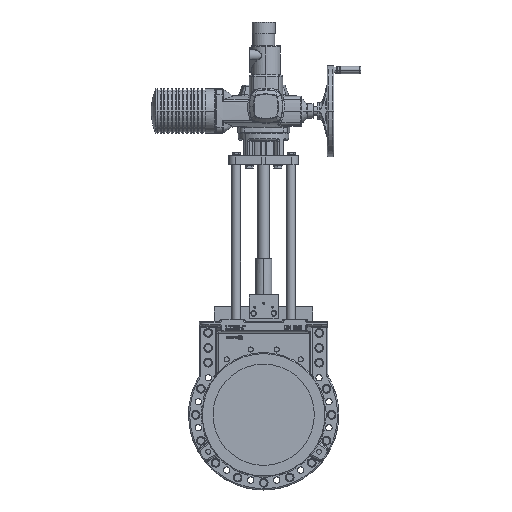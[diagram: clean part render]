
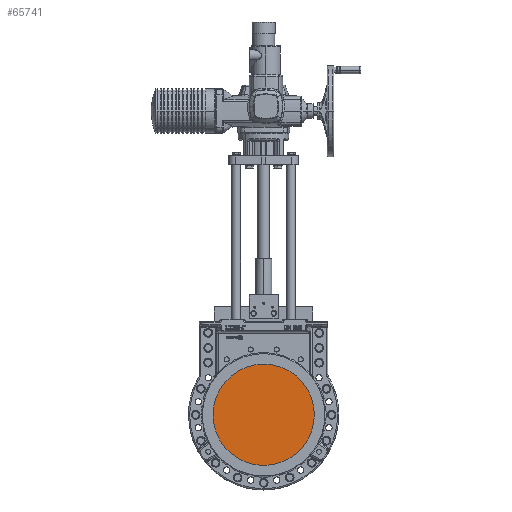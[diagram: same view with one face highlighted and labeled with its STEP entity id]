
A CAD part, top view. The second image highlights one B-rep face of the part: STEP entity #65741.
In plain terms, the highlighted planar face has unit normal (0, 0, 1).
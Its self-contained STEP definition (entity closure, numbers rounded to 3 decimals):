
#2413 = CARTESIAN_POINT ( 'NONE',  ( 0., 0., -0.25 ) ) ;
#7539 = ORIENTED_EDGE ( 'NONE', *, *, #76046, .T. ) ;
#15553 = DIRECTION ( 'NONE',  ( 1., 0., 0. ) ) ;
#17759 = DIRECTION ( 'NONE',  ( 0., 0., 1. ) ) ;
#57553 = AXIS2_PLACEMENT_3D ( 'NONE', #2413, #94377, #15553 ) ;
#65741 = ADVANCED_FACE ( 'NONE', ( #113243 ), #96514, .T. ) ;
#75082 = CARTESIAN_POINT ( 'NONE',  ( 0., 0., -0.25 ) ) ;
#76046 = EDGE_CURVE ( 'NONE', #77502, #159598, #107518, .T. ) ;
#77502 = VERTEX_POINT ( 'NONE', #162454 ) ;
#82344 = AXIS2_PLACEMENT_3D ( 'NONE', #122368, #17759, #109753 ) ;
#88330 = DIRECTION ( 'NONE',  ( 1., 0., 0. ) ) ;
#89759 = CIRCLE ( 'NONE', #110449, 175. ) ;
#94377 = DIRECTION ( 'NONE',  ( 0., 0., 1. ) ) ;
#96514 = PLANE ( 'NONE',  #82344 ) ;
#96557 = EDGE_LOOP ( 'NONE', ( #7539, #157766 ) ) ;
#107518 = CIRCLE ( 'NONE', #57553, 175. ) ;
#109753 = DIRECTION ( 'NONE',  ( 1., 0., 0. ) ) ;
#110449 = AXIS2_PLACEMENT_3D ( 'NONE', #75082, #166778, #88330 ) ;
#113243 = FACE_OUTER_BOUND ( 'NONE', #96557, .T. ) ;
#122368 = CARTESIAN_POINT ( 'NONE',  ( 0., 0., -0.25 ) ) ;
#157766 = ORIENTED_EDGE ( 'NONE', *, *, #160687, .T. ) ;
#159598 = VERTEX_POINT ( 'NONE', #169888 ) ;
#160687 = EDGE_CURVE ( 'NONE', #159598, #77502, #89759, .T. ) ;
#162454 = CARTESIAN_POINT ( 'NONE',  ( -175., 0., -0.25 ) ) ;
#166778 = DIRECTION ( 'NONE',  ( 0., 0., 1. ) ) ;
#169888 = CARTESIAN_POINT ( 'NONE',  ( 175., 0., -0.25 ) ) ;
